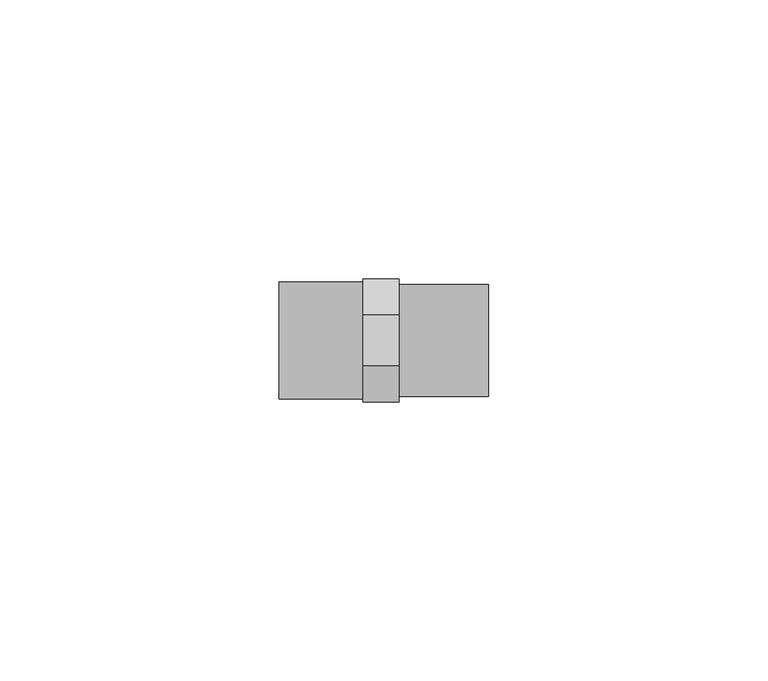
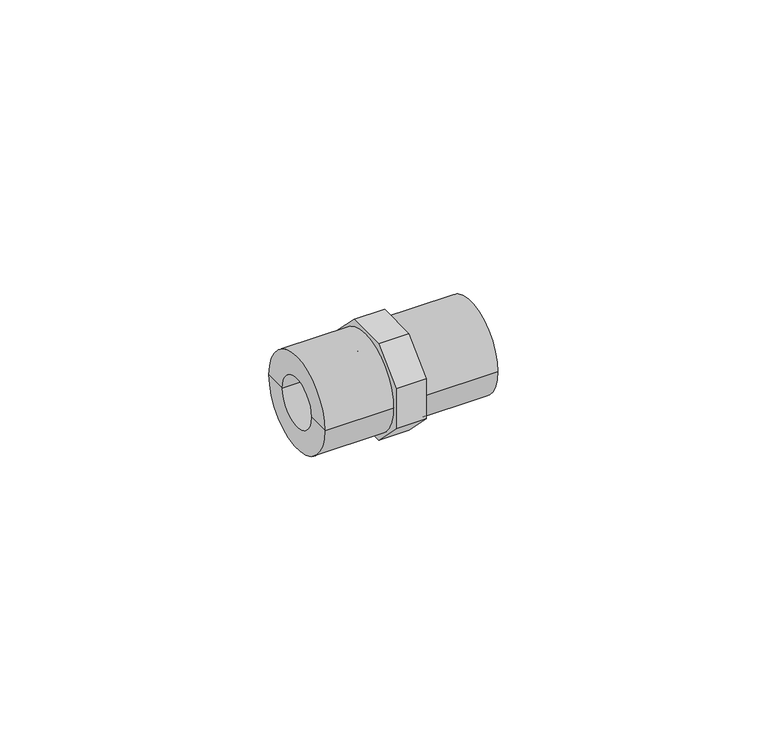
"""IFC4 building model written with IfcOpenShell, lengths in millimetres: pipe fitting geometry, Durapipe_PipeFitting_PVC_MaleThreadedAdaptors : 20 x 16 x 1⁄2."""

from ifc_helpers import new_model, si_unit, point, frame, origin, origin_2d, place, context, project, spatial, polyline, circle_curve, trimmed, segment, composite_curve, outline, extrude, source, transform, mapped, element, save
from ifc_brep_helpers import plane_surface, cylinder_surface, revolved_surface, advanced_brep


def pipe_fitting_66b5aaa3(model_context):
    return source(origin(), model_context, "Body", "SolidModel", [
        extrude(outline(polyline([(11.0, 4.5563492), (11.0, -4.5563492), (4.5563492, -11.0), (-4.5563492, -11.0), (-11.0, -4.5563492), (-11.0, 4.5563492), (-4.5563492, 11.0), (4.5563492, 11.0), (11.0, 4.5563492)]), holes=[composite_curve([segment(trimmed(circle_curve(origin_2d(), 5.5), [point((5.5, 0.0))], [point((-5.5, 0.0))], True, "CARTESIAN"), True, "CONTINUOUS"), segment(trimmed(circle_curve(origin_2d(), 5.5), [point((-5.5, 0.0))], [point((5.5, 0.0))], True, "CARTESIAN"), True, "CONTINUOUS")], self_intersect=False)]), frame((-6.5, 0.0, 0.0), z_axis=(1.0, 0.0, 0.0), x_axis=(0.0, 1.0, 0.0)), (0.0, 0.0, 1.0), 6.5),
        advanced_brep(
        [(0.0, -10.0, 0.0), (0.0, 10.0, 0.0), (16.0, 10.0, 0.0), (16.0, -10.0, 0.0), (16.0, 8.0, 0.0), (16.0, -8.0, 0.0), (0.0, 0.0, 0.0), (2.0, 8.0, 0.0), (2.0, -8.0, 0.0), (2.0, 0.0, 0.0)],
        [
            (0, 1, circle_curve(frame((0.0, 0.0, 0.0), z_axis=(1.0, 0.0, 0.0), x_axis=(0.0, 1.0, 0.0)), 10.0)),
            (1, 2),
            (2, 3, circle_curve(frame((16.0, 0.0, 0.0), z_axis=(-1.0, 0.0, 0.0), x_axis=(0.0, 1.0, 0.0)), 10.0)),
            (3, 0),
            (1, 0, circle_curve(frame((0.0, 0.0, 0.0), z_axis=(1.0, 0.0, 0.0), x_axis=(0.0, 1.0, 0.0)), 10.0)),
            (3, 2, circle_curve(frame((16.0, 0.0, 0.0), z_axis=(-1.0, 0.0, 0.0), x_axis=(0.0, 1.0, 0.0)), 10.0)),
            (2, 4),
            (4, 5, circle_curve(frame((16.0, 0.0, 0.0), z_axis=(-1.0, 0.0, 0.0), x_axis=(0.0, 1.0, 0.0)), 8.0)),
            (5, 3),
            (5, 4, circle_curve(frame((16.0, 0.0, 0.0), z_axis=(-1.0, 0.0, 0.0), x_axis=(0.0, 1.0, 0.0)), 8.0)),
            (0, 6),
            (6, 1),
            (7, 8, circle_curve(frame((2.0, 0.0, 0.0), z_axis=(-1.0, 0.0, 0.0), x_axis=(0.0, 1.0, 0.0)), 8.0)),
            (8, 5),
            (4, 7),
            (8, 7, circle_curve(frame((2.0, 0.0, 0.0), z_axis=(-1.0, 0.0, 0.0), x_axis=(0.0, 1.0, 0.0)), 8.0)),
            (7, 9),
            (9, 8),
        ],
        [
            cylinder_surface(frame((417.4572068, 0.0, 0.0), z_axis=(-1.0, 0.0, 0.0), x_axis=(0.0, 1.0, 0.0)), 10.0),
            plane_surface(frame((16.0, 0.0, 0.0), z_axis=(1.0, 0.0, 0.0), x_axis=(0.0, 1.0, 0.0))),
            plane_surface(frame((0.0, 0.0, 0.0), z_axis=(-1.0, 0.0, 0.0), x_axis=(0.0, 1.0, 0.0))),
            revolved_surface(polyline([(2.0, 8.0, 0.0), (16.0, 8.0, 0.0)]), (29.5575137, 0.0, 0.0), (-1.0, 0.0, 0.0)),
            plane_surface(frame((2.0, 0.0, 0.0), z_axis=(1.0, 0.0, 0.0), x_axis=(0.0, 1.0, 0.0))),
        ],
        [
            (0, [[1, 2, 3, 4]]),
            (0, [[-2, 5, -4, 6]]),
            (1, [[-3, 7, 8, 9]]),
            (1, [[-6, -9, 10, -7]]),
            (2, [[-1, 11, 12]]),
            (2, [[-5, -12, -11]]),
            (3, [[13, 14, -8, 15]]),
            (3, [[16, -15, -10, -14]]),
            (4, [[-13, 17, 18]]),
            (4, [[-16, -18, -17]]),
        ],
    ),
        advanced_brep(
        [(-6.5, -5.5, 0.0), (-6.5, 5.5, 0.0), (-21.5, 5.5, 0.0), (-21.5, -5.5, 0.0), (-6.5, -10.5, 0.0), (-6.5, 10.5, 0.0), (-21.5, -10.5, 0.0), (-21.5, 10.5, 0.0)],
        [
            (0, 1, circle_curve(frame((-6.5, 0.0, 0.0), z_axis=(1.0, 0.0, 0.0), x_axis=(0.0, 1.0, 0.0)), 5.5)),
            (1, 2),
            (2, 3, circle_curve(frame((-21.5, 0.0, 0.0), z_axis=(-1.0, 0.0, 0.0), x_axis=(0.0, 1.0, 0.0)), 5.5)),
            (3, 0),
            (1, 0, circle_curve(frame((-6.5, 0.0, 0.0), z_axis=(1.0, 0.0, 0.0), x_axis=(0.0, 1.0, 0.0)), 5.5)),
            (3, 2, circle_curve(frame((-21.5, 0.0, 0.0), z_axis=(-1.0, 0.0, 0.0), x_axis=(0.0, 1.0, 0.0)), 5.5)),
            (4, 5, circle_curve(frame((-6.5, 0.0, 0.0), z_axis=(1.0, 0.0, 0.0), x_axis=(0.0, 1.0, 0.0)), 10.5)),
            (5, 1),
            (0, 4),
            (5, 4, circle_curve(frame((-6.5, 0.0, 0.0), z_axis=(1.0, 0.0, 0.0), x_axis=(0.0, 1.0, 0.0)), 10.5)),
            (6, 7, circle_curve(frame((-21.5, 0.0, 0.0), z_axis=(1.0, 0.0, 0.0), x_axis=(0.0, 1.0, 0.0)), 10.5)),
            (7, 5),
            (4, 6),
            (7, 6, circle_curve(frame((-21.5, 0.0, 0.0), z_axis=(1.0, 0.0, 0.0), x_axis=(0.0, 1.0, 0.0)), 10.5)),
            (2, 7),
            (6, 3),
        ],
        [
            revolved_surface(polyline([(-21.5, 5.5, 0.0), (-6.5, 5.5, 0.0)]), (-36.5, 0.0, 0.0), (-1.0, 0.0, 0.0)),
            plane_surface(frame((-6.5, 0.0, 0.0), z_axis=(1.0, 0.0, 0.0), x_axis=(0.0, 1.0, 0.0))),
            cylinder_surface(frame((-36.5, 0.0, 0.0), z_axis=(-1.0, 0.0, 0.0), x_axis=(0.0, 1.0, 0.0)), 10.5),
            plane_surface(frame((-21.5, 0.0, 0.0), z_axis=(-1.0, 0.0, 0.0), x_axis=(0.0, 1.0, 0.0))),
        ],
        [
            (0, [[1, 2, 3, 4]]),
            (0, [[5, -4, 6, -2]]),
            (1, [[7, 8, -1, 9]]),
            (1, [[10, -9, -5, -8]]),
            (2, [[11, 12, -7, 13]]),
            (2, [[14, -13, -10, -12]]),
            (3, [[-3, 15, -11, 16]]),
            (3, [[-6, -16, -14, -15]]),
        ],
    ),
    ])


if __name__ == "__main__":
    model = new_model("IFC4")
    model_context = context("Model", 3, world=origin())
    ifc_project = project(units=[si_unit("LENGTHUNIT", "METRE", prefix="MILLI")], contexts=[model_context])
    site = spatial("IfcSite", under=ifc_project)
    building = spatial("IfcBuilding", under=site)
    placement = place(None, origin())
    pipe_fitting_shape = pipe_fitting_66b5aaa3(model_context)
    element("IfcPipeFitting", 1, ObjectType="Durapipe_PipeFitting_PVC_MaleThreadedAdaptors : 20 x 16 x 1⁄2", at=placement, inside=building, context=model_context, shape_type="MappedRepresentation", body=[
        mapped(pipe_fitting_shape, transform((0.0, 0.0, 0.0), x_axis=(1.0, 0.0, 0.0), y_axis=(0.0, 1.0, 0.0), z_axis=(0.0, 0.0, 1.0))),
    ])
    save(model, "model.ifc")
